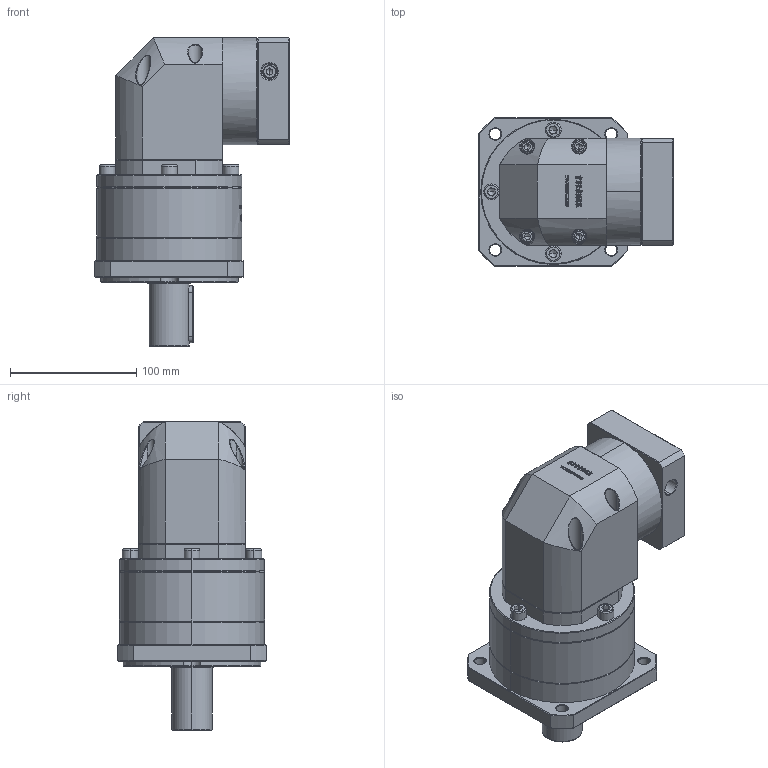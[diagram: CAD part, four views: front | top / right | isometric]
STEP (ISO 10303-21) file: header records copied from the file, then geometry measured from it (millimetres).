
FILE_DESCRIPTION (( 'STEP AP214' ), '1' );
FILE_NAME ('ZFR120A-D32-L2-16-80-100-M6.step', '2023-03-08T05:48:30', ( '' ), ( '' ), 'SwSTEP 2.0', 'SolidWorks 2016', '' );
FILE_SCHEMA (( 'AUTOMOTIVE_DESIGN' ));
Length unit declared in the file: millimetre
Products named in the file (1): ZFR120A-D32-L2-16-80-100-M6
Bounding box: 154.1 x 118 x 245 mm (x, y, z)
Volume: 1869351.7 mm3; surface area: 171878.1 mm2
Topology: 6 solids, 6 shells, 3003 faces, 7960 edges, 5105 vertices
Faces by surface type: plane 1576, bspline 625, cylinder 455, cone 333, torus 14
Entity records: 163846 total; most frequent: CARTESIAN_POINT 62324, ORIENTED_EDGE 15828, DIRECTION 11669, EDGE_CURVE 7914, VERTEX_POINT 5105, VECTOR 4923, LINE 4923, AXIS2_PLACEMENT_3D 3373
